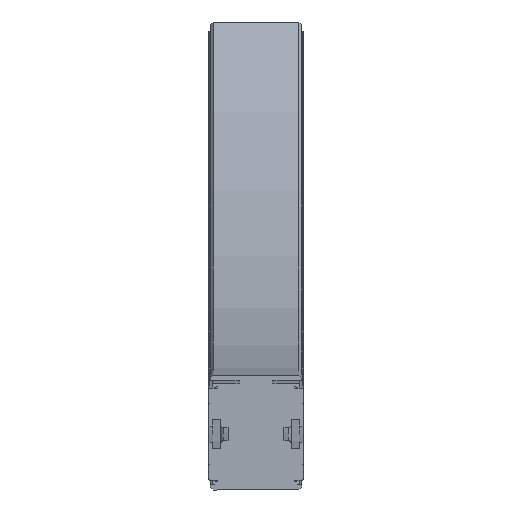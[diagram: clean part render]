
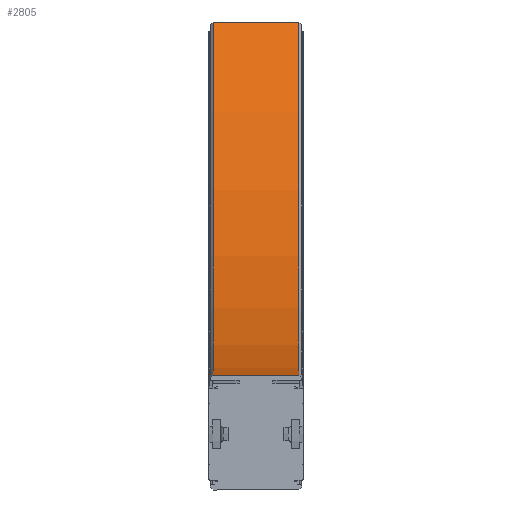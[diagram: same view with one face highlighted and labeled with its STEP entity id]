
A CAD part, front view. The second image highlights one B-rep face of the part: STEP entity #2805.
In plain terms, the highlighted cylindrical face has radius 820 mm (diameter 1640 mm), a partial arc.
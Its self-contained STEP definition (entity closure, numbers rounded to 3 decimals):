
#92=CYLINDRICAL_SURFACE('',#3101,820.);
#315=CIRCLE('',#3100,820.);
#316=CIRCLE('',#3102,820.);
#474=FACE_OUTER_BOUND('',#628,.T.);
#628=EDGE_LOOP('',(#2299,#2300,#2301,#2302));
#821=LINE('',#9361,#1027);
#822=LINE('',#9363,#1028);
#1027=VECTOR('',#3830,10.);
#1028=VECTOR('',#3831,10.);
#1299=VERTEX_POINT('',#9354);
#1300=VERTEX_POINT('',#9356);
#1301=VERTEX_POINT('',#9360);
#1302=VERTEX_POINT('',#9362);
#1698=EDGE_CURVE('',#1299,#1300,#315,.T.);
#1699=EDGE_CURVE('',#1301,#1299,#821,.T.);
#1700=EDGE_CURVE('',#1302,#1300,#822,.T.);
#1701=EDGE_CURVE('',#1301,#1302,#316,.T.);
#2299=ORIENTED_EDGE('',*,*,#1699,.T.);
#2300=ORIENTED_EDGE('',*,*,#1698,.T.);
#2301=ORIENTED_EDGE('',*,*,#1700,.F.);
#2302=ORIENTED_EDGE('',*,*,#1701,.F.);
#2805=ADVANCED_FACE('',(#474),#92,.F.);
#3100=AXIS2_PLACEMENT_3D('',#9358,#3826,#3827);
#3101=AXIS2_PLACEMENT_3D('',#9359,#3828,#3829);
#3102=AXIS2_PLACEMENT_3D('',#9364,#3832,#3833);
#3826=DIRECTION('center_axis',(1.,0.,0.));
#3827=DIRECTION('ref_axis',(0.,0.,
-1.));
#3828=DIRECTION('center_axis',(1.,0.,0.));
#3829=DIRECTION('ref_axis',(0.,0.,-1.));
#3830=DIRECTION('',(1.,0.,0.));
#3831=DIRECTION('',(1.,0.,0.));
#3832=DIRECTION('center_axis',(1.,0.,0.));
#3833=DIRECTION('ref_axis',(0.,0.,
-1.));
#9354=CARTESIAN_POINT('',(29.,0.,40.));
#9356=CARTESIAN_POINT('',(29.,579.828,280.172));
#9358=CARTESIAN_POINT('Origin',(29.,0.,
860.));
#9359=CARTESIAN_POINT('Origin',(-14.5,0.,860.));
#9360=CARTESIAN_POINT('',(-29.,0.,40.));
#9361=CARTESIAN_POINT('',(-29.,0.,40.));
#9362=CARTESIAN_POINT('',(-29.,579.828,280.172));
#9363=CARTESIAN_POINT('',(-29.,579.828,280.172));
#9364=CARTESIAN_POINT('Origin',(-29.,0.,860.));
